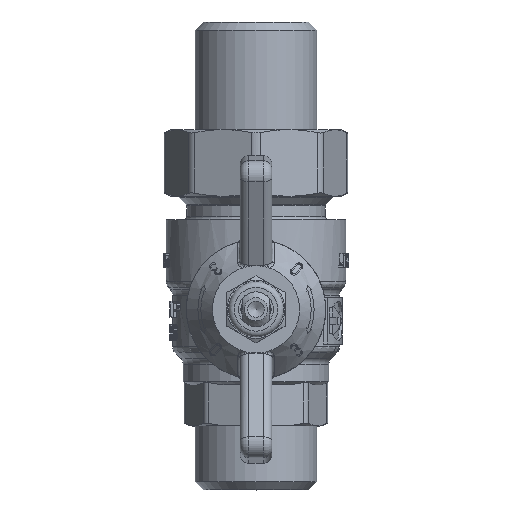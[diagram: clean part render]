
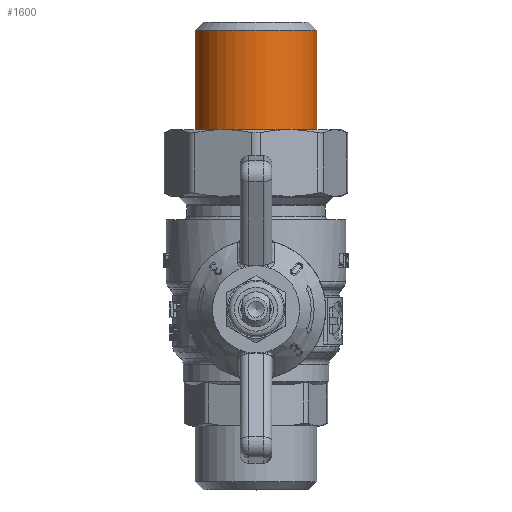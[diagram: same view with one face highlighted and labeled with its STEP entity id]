
A CAD part, top view. The second image highlights one B-rep face of the part: STEP entity #1600.
In plain terms, the highlighted cylindrical face has radius 10.477 mm (diameter 20.955 mm), a full revolution.
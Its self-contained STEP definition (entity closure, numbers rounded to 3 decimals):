
#1600=ADVANCED_FACE('',(#15108,#15110),#15112,.T.);
#15108=FACE_OUTER_BOUND('',#15109,.T.);
#15109=EDGE_LOOP('',(#26657));
#15110=FACE_OUTER_BOUND('',#15111,.T.);
#15111=EDGE_LOOP('',(#26658));
#15112=CYLINDRICAL_SURFACE('',#15113,10.478);
#15113=AXIS2_PLACEMENT_3D('',#15114,#15115,#15116);
#15114=CARTESIAN_POINT('',(0.,22.282,0.));
#15115=DIRECTION('',(0.,1.,0.));
#15116=DIRECTION('',(-1.,0.,0.));
#26657=ORIENTED_EDGE('',*,*,#32698,.F.);
#26658=ORIENTED_EDGE('',*,*,#32705,.F.);
#32698=EDGE_CURVE('',#40995,#40995,#40996,.T.);
#32705=EDGE_CURVE('',#41006,#41006,#41007,.F.);
#40995=VERTEX_POINT('',#68744);
#40996=CIRCLE('',#68745,10.478);
#41006=VERTEX_POINT('',#68770);
#41007=CIRCLE('',#68771,10.478);
#68744=CARTESIAN_POINT('',(-10.478,48.082,0.));
#68745=AXIS2_PLACEMENT_3D('',#68746,#68747,#68748);
#68746=CARTESIAN_POINT('',(0.,48.082,0.));
#68747=DIRECTION('',(0.,1.,0.));
#68748=DIRECTION('',(-1.,0.,0.));
#68770=CARTESIAN_POINT('',(-10.478,28.982,0.));
#68771=AXIS2_PLACEMENT_3D('',#68772,#68773,#68774);
#68772=CARTESIAN_POINT('',(0.,28.982,0.));
#68773=DIRECTION('',(0.,1.,0.));
#68774=DIRECTION('',(-1.,0.,0.));
